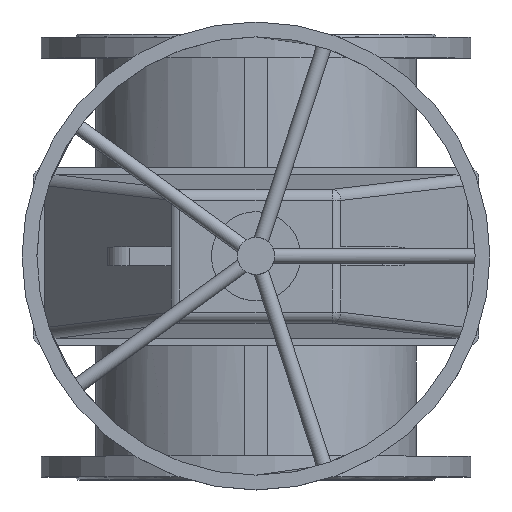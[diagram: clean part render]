
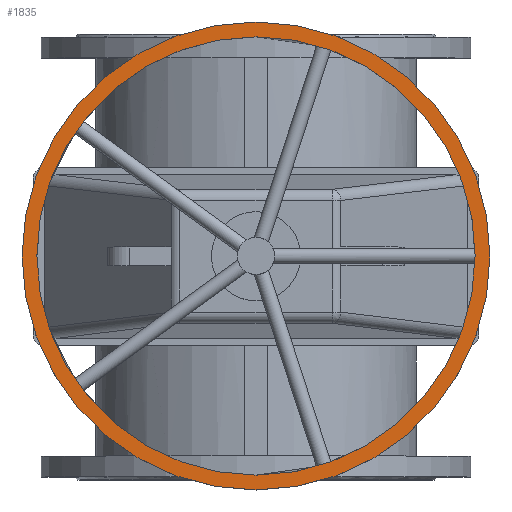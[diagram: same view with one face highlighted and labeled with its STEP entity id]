
A CAD part, top view. The second image highlights one B-rep face of the part: STEP entity #1835.
In plain terms, the highlighted planar face has unit normal (0, 0, 1).
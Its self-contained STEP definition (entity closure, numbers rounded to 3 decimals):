
#1835=ADVANCED_FACE('',(#4276,#4278),#4280,.T.);
#4276=FACE_BOUND('',#4277,.T.);
#4277=EDGE_LOOP('',(#5413));
#4278=FACE_BOUND('',#4279,.T.);
#4279=EDGE_LOOP('',(#5414));
#4280=PLANE('',#4281);
#4281=AXIS2_PLACEMENT_3D('',#4282,#4283,#4284);
#4282=CARTESIAN_POINT('',(0.,0.,950.5));
#4283=DIRECTION('',(0.,0.,1.));
#4284=DIRECTION('',(0.,-1.,0.));
#5413=ORIENTED_EDGE('',*,*,#5975,.T.);
#5414=ORIENTED_EDGE('',*,*,#5973,.T.);
#5973=EDGE_CURVE('',#6915,#6915,#6916,.F.);
#5975=EDGE_CURVE('',#6919,#6919,#6920,.T.);
#6915=VERTEX_POINT('',#12061);
#6916=CIRCLE('',#12062,295.);
#6919=VERTEX_POINT('',#12071);
#6920=CIRCLE('',#12072,315.);
#12061=CARTESIAN_POINT('',(0.,-295.,950.5));
#12062=AXIS2_PLACEMENT_3D('',#12063,#12064,#12065);
#12063=CARTESIAN_POINT('',(0.,0.,950.5));
#12064=DIRECTION('',(0.,0.,1.));
#12065=DIRECTION('',(0.,-1.,0.));
#12071=CARTESIAN_POINT('',(0.,-315.,950.5));
#12072=AXIS2_PLACEMENT_3D('',#12073,#12074,#12075);
#12073=CARTESIAN_POINT('',(0.,0.,950.5));
#12074=DIRECTION('',(0.,0.,1.));
#12075=DIRECTION('',(0.,-1.,0.));
